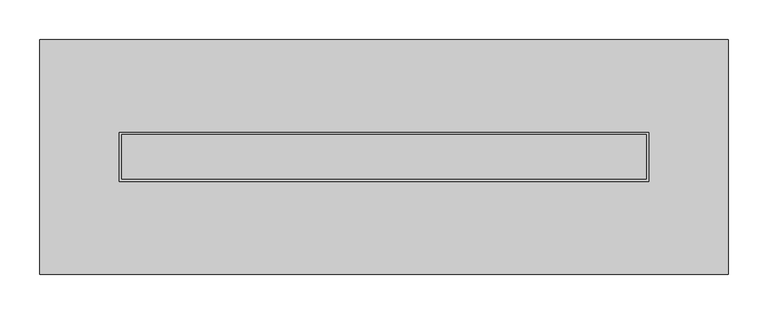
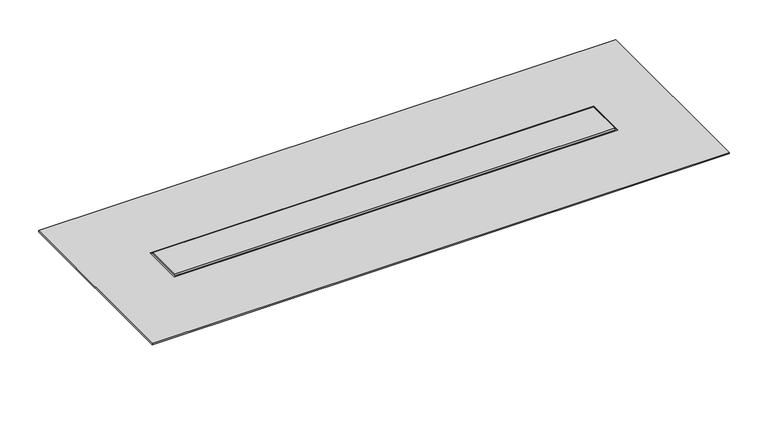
"""IFC4 building model written with IfcOpenShell, lengths in millimetres: sanitary terminal geometry, NLRS_PF_52_UN_Compact TAF Low_Easydrain : Compact TAF Low Inleg."""

from ifc_helpers import new_model, si_unit, frame, origin, place, context, project, spatial, polyline, circle_curve, ellipse_curve, outline, extrude, source, transform, mapped, element, save
from ifc_brep_helpers import plane_surface, cylinder_surface, advanced_brep


def sanitary_terminal_94900406(model_context):
    return source(origin(), model_context, "Body", "SolidModel", [
        extrude(outline(polyline([(429.5, 28.0), (429.5, -28.0), (-229.5, -28.0), (-229.5, 28.0), (429.5, 28.0)])), frame((0.0, 0.0, -3.0), z_axis=(0.0, 0.0, 1.0), x_axis=(1.0, 0.0, 0.0)), (0.0, 0.0, 1.0), 3.0),
        extrude(outline(polyline([(532.5, 147.5), (532.5, -147.5), (-332.5, -147.5), (-332.5, 147.5), (532.5, 147.5)]), holes=[polyline([(432.5, 31.0), (-232.5, 31.0), (-232.5, -31.0), (432.5, -31.0), (432.5, 31.0)])]), frame((0.0, 0.0, -4.0), z_axis=(0.0, 0.0, 1.0), x_axis=(1.0, 0.0, 0.0)), (0.0, 0.0, 1.0), 2.0),
        advanced_brep(
        [(-232.5, -31.0, -21.0), (-10.0, -31.0, -23.0), (-10.0, -31.0, -86.0), (210.0, -31.0, -86.0), (210.0, -31.0, -23.0), (432.5, -31.0, -21.0), (432.5, -31.0, -5.0), (-232.5, -31.0, -5.0), (100.0, -31.0, -26.0), (100.0, -31.0, -76.0), (432.5, 31.0, -21.0), (210.0, 31.0, -23.0), (210.0, 31.0, -86.0), (-10.0, 31.0, -86.0), (-10.0, 31.0, -23.0), (-232.5, 31.0, -21.0), (-232.5, 31.0, -5.0), (432.5, 31.0, -5.0), (-212.5, 0.0, -21.1797753), (-172.5, 0.0, -21.5393258), (432.5, 30.0, -5.0), (432.5, -30.0, -5.0), (450.0, 47.5, -3.0), (-250.0, 47.5, -3.0), (-250.0, -64.5, -3.0), (450.0, -64.5, -3.0), (-232.5, -30.0, -5.0), (-232.5, 30.0, -5.0), (372.5, 0.0, -21.5393258), (412.5, 0.0, -21.1797753), (100.0, -50.0, -26.0), (100.0, -50.0, -76.0), (450.0, 47.5, -5.0), (450.0, -64.5, -5.0), (-250.0, -64.5, -5.0), (-250.0, 47.5, -5.0), (-212.5, 0.0, -86.0), (-172.5, 0.0, -86.0), (372.5, 0.0, -86.0), (412.5, 0.0, -86.0)],
        [
            (0, 1),
            (1, 2),
            (2, 3),
            (3, 4),
            (4, 5),
            (5, 6),
            (6, 7),
            (7, 0),
            (8, 9, circle_curve(frame((100.0, -31.0, -51.0), z_axis=(0.0, 1.0, 0.0), x_axis=(0.0, 0.0, -1.0)), 25.0)),
            (9, 8, circle_curve(frame((100.0, -31.0, -51.0), z_axis=(0.0, 1.0, 0.0), x_axis=(0.0, 0.0, -1.0)), 25.0)),
            (10, 11),
            (11, 12),
            (12, 13),
            (13, 14),
            (14, 15),
            (15, 16),
            (16, 17),
            (17, 10),
            (0, 15),
            (14, 1),
            (18, 19, ellipse_curve(frame((-192.5, 0.0, -21.3595506), z_axis=(0.00898840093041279, 0.0, 0.9999596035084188), x_axis=(-0.9999596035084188, 0.0, 0.008988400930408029)), 20.000808, 20.0)),
            (19, 18, ellipse_curve(frame((-192.5, 0.0, -21.3595506), z_axis=(0.00898840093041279, 0.0, 0.9999596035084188), x_axis=(-0.9999596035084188, 0.0, 0.008988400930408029)), 20.000808, 20.0)),
            (5, 10),
            (17, 20),
            (20, 21),
            (21, 6),
            (22, 23),
            (23, 24),
            (24, 25),
            (25, 22),
            (7, 26),
            (26, 27),
            (27, 16),
            (13, 2),
            (12, 3),
            (11, 4),
            (28, 29, ellipse_curve(frame((392.5, 0.0, -21.3595506), z_axis=(-0.00898840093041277, 0.0, 0.9999596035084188), x_axis=(0.9999596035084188, 0.0, 0.00898840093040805)), 20.000808, 20.0)),
            (29, 28, ellipse_curve(frame((392.5, 0.0, -21.3595506), z_axis=(-0.00898840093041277, 0.0, 0.9999596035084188), x_axis=(0.9999596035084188, 0.0, 0.00898840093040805)), 20.000808, 20.0)),
            (30, 31, circle_curve(frame((100.0, -50.0, -51.0), z_axis=(0.0, -1.0, 0.0), x_axis=(0.0, 0.0, -1.0)), 25.0)),
            (31, 30, circle_curve(frame((100.0, -50.0, -51.0), z_axis=(0.0, -1.0, 0.0), x_axis=(0.0, 0.0, -1.0)), 25.0)),
            (31, 9),
            (8, 30),
            (32, 33),
            (33, 34),
            (34, 35),
            (35, 32),
            (22, 32),
            (35, 23),
            (34, 24),
            (33, 25),
            (36, 37, circle_curve(frame((-192.5, 0.0, -86.0), z_axis=(0.0, 0.0, -1.0), x_axis=(1.0, 0.0, 0.0)), 20.0)),
            (37, 36, circle_curve(frame((-192.5, 0.0, -86.0), z_axis=(0.0, 0.0, -1.0), x_axis=(1.0, 0.0, 0.0)), 20.0)),
            (38, 39, circle_curve(frame((392.5, 0.0, -86.0), z_axis=(0.0, 0.0, -1.0), x_axis=(1.0, 0.0, 0.0)), 20.0)),
            (39, 38, circle_curve(frame((392.5, 0.0, -86.0), z_axis=(0.0, 0.0, -1.0), x_axis=(1.0, 0.0, 0.0)), 20.0)),
            (37, 19),
            (18, 36),
            (39, 29),
            (28, 38),
        ],
        [
            plane_surface(frame((-232.5, -31.0, -21.0), z_axis=(0.0, -1.0, 0.0), x_axis=(0.9999596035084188, 0.0, -0.00898840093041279))),
            plane_surface(frame((-232.5, 31.0, -21.0), z_axis=(0.0, 1.0, 0.0), x_axis=(-0.9999596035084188, 0.0, 0.00898840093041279))),
            plane_surface(frame((-232.5, -31.0, -21.0), z_axis=(-0.00898840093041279, 0.0, -0.9999596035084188), x_axis=(0.0, 1.0, 0.0))),
            plane_surface(frame((432.5, -31.0, -21.0), z_axis=(1.0, 0.0, 0.0), x_axis=(0.0, 1.0, 0.0))),
            plane_surface(frame((432.5, -31.0, -3.0), z_axis=(0.0, 0.0, 1.0), x_axis=(0.0, 1.0, 0.0))),
            plane_surface(frame((-232.5, -31.0, -3.0), z_axis=(-1.0, 0.0, 0.0), x_axis=(0.0, 1.0, 0.0))),
            plane_surface(frame((-10.0, -31.0, -23.0), z_axis=(-1.0, 0.0, 0.0), x_axis=(0.0, 1.0, 0.0))),
            plane_surface(frame((-10.0, -31.0, -86.0), z_axis=(0.0, 0.0, -1.0), x_axis=(0.0, 1.0, 0.0))),
            plane_surface(frame((210.0, -31.0, -86.0), z_axis=(1.0, 0.0, 0.0), x_axis=(0.0, 1.0, 0.0))),
            plane_surface(frame((210.0, -31.0, -23.0), z_axis=(0.00898840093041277, 0.0, -0.9999596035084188), x_axis=(0.0, 1.0, 0.0))),
            plane_surface(frame((100.0, -50.0, -51.0), z_axis=(0.0, -1.0, 0.0), x_axis=(1.0, 0.0, 0.0))),
            cylinder_surface(frame((100.0, 0.0, -51.0), z_axis=(0.0, 1.0, 0.0), x_axis=(0.0, 0.0, -1.0)), 25.0),
            plane_surface(frame((432.5, 30.0, -5.0), z_axis=(0.0, 0.0, -1.0), x_axis=(0.0, 1.0, 0.0))),
            plane_surface(frame((450.0, 47.5, -3.0), z_axis=(0.0, 1.0, 0.0), x_axis=(0.0, 0.0, -1.0))),
            plane_surface(frame((-250.0, 47.5, -3.0), z_axis=(-1.0, 0.0, 0.0), x_axis=(0.0, 0.0, -1.0))),
            plane_surface(frame((-250.0, -64.5, -3.0), z_axis=(0.0, -1.0, 0.0), x_axis=(0.0, 0.0, -1.0))),
            plane_surface(frame((450.0, -64.5, -3.0), z_axis=(1.0, 0.0, 0.0), x_axis=(0.0, 0.0, -1.0))),
            plane_surface(frame((-172.5, 0.0, -86.0), z_axis=(0.0, 0.0, -1.0), x_axis=(0.0, -1.0, 0.0))),
            cylinder_surface(frame((-192.5, 0.0, -86.0), z_axis=(0.0, 0.0, 1.0), x_axis=(1.0, 0.0, 0.0)), 20.0),
            cylinder_surface(frame((392.5, 0.0, 0.0), z_axis=(0.0, 0.0, 1.0), x_axis=(1.0, 0.0, 0.0)), 20.0),
        ],
        [
            (0, [[1, 2, 3, 4, 5, 6, 7, 8], [9, 10]]),
            (1, [[11, 12, 13, 14, 15, 16, 17, 18]]),
            (2, [[-1, 19, -15, 20], [21, 22]]),
            (3, [[23, -18, 24, 25, 26, -6]]),
            (4, [[27, 28, 29, 30]]),
            (5, [[-19, -8, 31, 32, 33, -16]]),
            (6, [[-2, -20, -14, 34]]),
            (7, [[-3, -34, -13, 35]]),
            (8, [[-4, -35, -12, 36]]),
            (9, [[-5, -36, -11, -23], [37, 38]]),
            (10, [[39, 40]]),
            (11, [[-40, 41, -9, 42]]),
            (11, [[-39, -42, -10, -41]]),
            (12, [[43, 44, 45, 46], [-7, -26, -25, -24, -17, -33, -32, -31]]),
            (13, [[-27, 47, -46, 48]]),
            (14, [[-28, -48, -45, 49]]),
            (15, [[-29, -49, -44, 50]]),
            (16, [[-30, -50, -43, -47]]),
            (17, [[51, 52]]),
            (17, [[53, 54]]),
            (18, [[-52, 55, -21, 56]]),
            (18, [[-51, -56, -22, -55]]),
            (19, [[-54, 57, -37, 58]]),
            (19, [[-53, -58, -38, -57]]),
        ],
    ),
    ])


if __name__ == "__main__":
    model = new_model("IFC4")
    model_context = context("Model", 3, world=origin())
    ifc_project = project(units=[si_unit("LENGTHUNIT", "METRE", prefix="MILLI")], contexts=[model_context])
    site = spatial("IfcSite", under=ifc_project)
    building = spatial("IfcBuilding", under=site)
    placement = place(None, origin())
    sanitary_terminal_shape = sanitary_terminal_94900406(model_context)
    element("IfcSanitaryTerminal", 1, ObjectType="NLRS_PF_52_UN_Compact TAF Low_Easydrain : Compact TAF Low Inleg", at=placement, inside=building, context=model_context, shape_type="MappedRepresentation", body=[
        mapped(sanitary_terminal_shape, transform((0.0, 0.0, 0.0), x_axis=(1.0, 0.0, 0.0), y_axis=(0.0, 1.0, 0.0), z_axis=(0.0, 0.0, 1.0))),
    ])
    save(model, "model.ifc")
